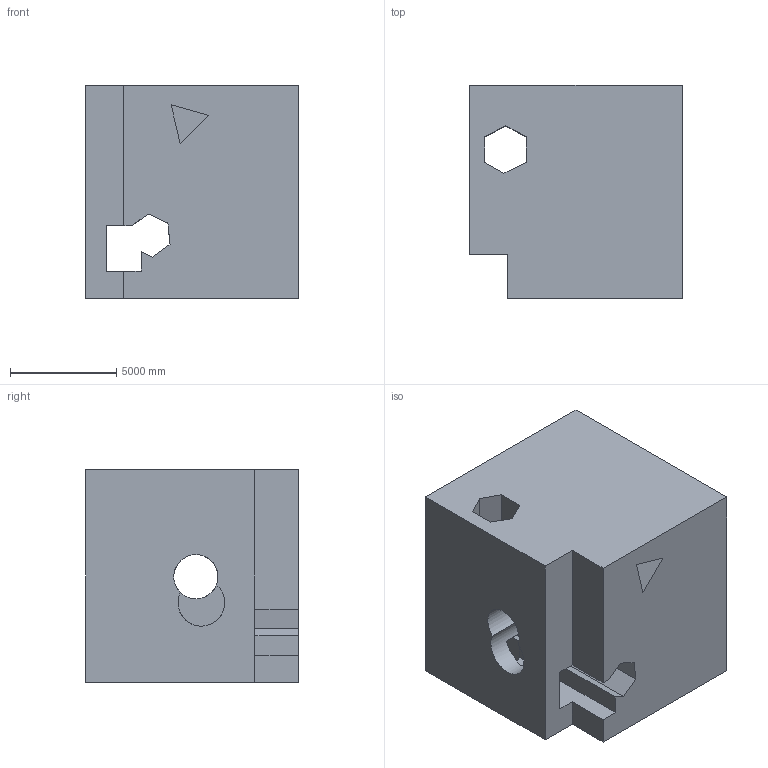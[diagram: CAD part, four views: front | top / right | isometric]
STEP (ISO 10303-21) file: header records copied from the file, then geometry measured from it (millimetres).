
FILE_DESCRIPTION (( 'STEP AP203' ), '1' );
FILE_NAME ('1781.STEP', '2022-08-19T12:49:55', ( 'user' ), ( '' ), 'SwSTEP 2.0', 'SolidWorks 2021', '' );
FILE_SCHEMA (( 'CONFIG_CONTROL_DESIGN' ));
Length unit declared in the file: centimetre
Products named in the file (1): 1781
Bounding box: 10000 x 10000 x 10000 mm (x, y, z)
Volume: 831960304988.4 mm3; surface area: 784040912.2 mm2
Topology: 1 solids, 1 shells, 48 faces, 150 edges, 100 vertices
Faces by surface type: plane 43, cylinder 5
Entity records: 1795 total; most frequent: CARTESIAN_POINT 369, ORIENTED_EDGE 300, DIRECTION 254, EDGE_CURVE 150, VECTOR 126, LINE 126, VERTEX_POINT 100, AXIS2_PLACEMENT_3D 64
